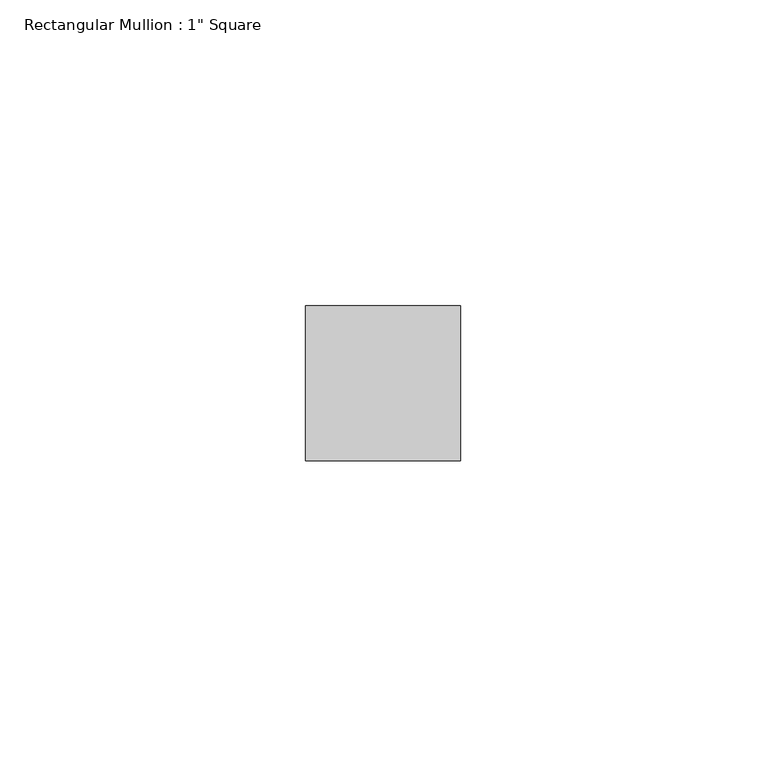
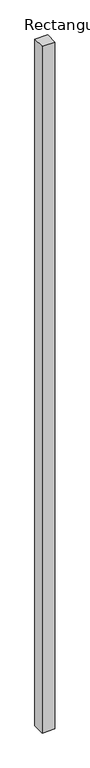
"""IFC4 building model written with IfcOpenShell, lengths in millimetres: member geometry."""

from ifc_helpers import new_model, si_unit, frame, origin, place, context, project, spatial, polyline, outline, extrude, source, transform, mapped, element, save


def member_ff5bcfe9(model_context):
    return source(origin(), model_context, "Body", "SweptSolid", [
        extrude(outline(polyline([(12.7, 12.7), (12.7, -12.7), (-12.7, -12.7), (-12.7, 12.7), (12.7, 12.7)])), frame((0.0, 0.0, -1461.055757), z_axis=(0.0, 0.0, 1.0), x_axis=(1.0, 0.0, 0.0)), (0.0, 0.0, 1.0), 1461.055757),
    ])


if __name__ == "__main__":
    model = new_model("IFC4")
    model_context = context("Model", 3, world=origin())
    ifc_project = project(units=[si_unit("LENGTHUNIT", "METRE", prefix="MILLI")], contexts=[model_context])
    site = spatial("IfcSite", under=ifc_project)
    building = spatial("IfcBuilding", under=site)
    placement = place(None, origin())
    member_shape = member_ff5bcfe9(model_context)
    element("IfcMember", 1, ObjectType="Rectangular Mullion : 1\" Square", at=placement, inside=building, context=model_context, shape_type="MappedRepresentation", body=[
        mapped(member_shape, transform((0.0, 0.0, 0.0), x_axis=(1.0, 0.0, 0.0), y_axis=(0.0, 1.0, 0.0), z_axis=(0.0, 0.0, 1.0))),
    ])
    save(model, "model.ifc")
